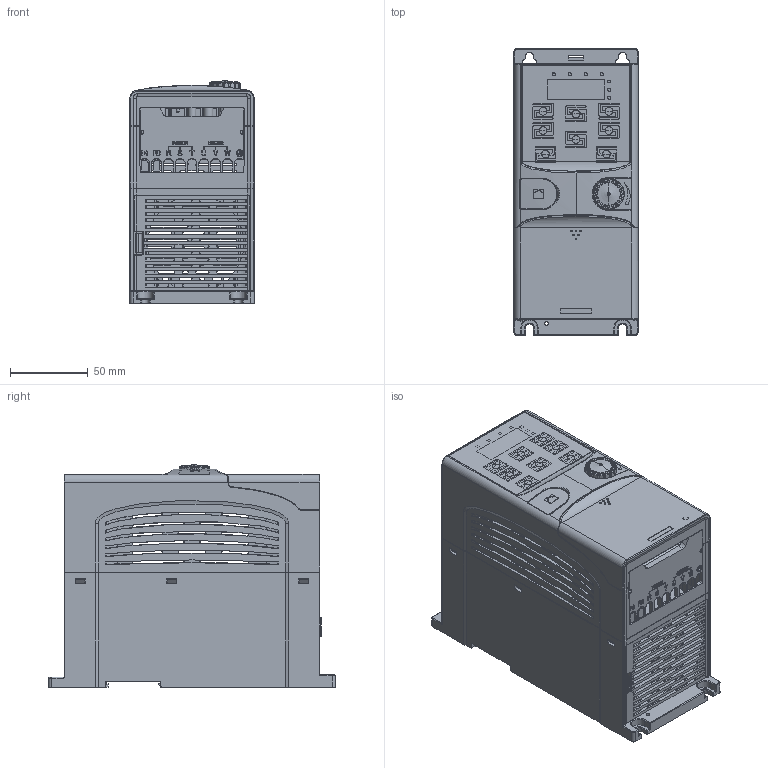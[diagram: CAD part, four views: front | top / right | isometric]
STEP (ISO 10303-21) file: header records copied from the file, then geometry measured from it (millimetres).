
FILE_DESCRIPTION (( 'STEP AP203' ), '1' );
FILE_NAME ('GD20-2R2G-4-UL.STEP', '2020-03-25T15:43:34', ( '' ), ( '' ), 'SwSTEP 2.0', 'SolidWorks 2017', '' );
FILE_SCHEMA (( 'CONFIG_CONTROL_DESIGN' ));
Length unit declared in the file: millimetre
Products named in the file (23): PRT-1; GD20-2R2G-4-UL; PRT-6; PRT-11; PRT-3; PRT-9; PRT-10; PRT-4; PRT-5; PRT-7; PRT-2; PRT-8
Assembly tree (11 placements, depth 2):
  GD20-2R2G-4-UL
    PRT-11
    PRT-10
    PRT-9
    PRT-8
    PRT-7
    PRT-6
    PRT-5
    PRT-4
    PRT-3
    PRT-2
    PRT-1
  PRT-6
  PRT-11
  PRT-3
  PRT-1
Bounding box: 80 x 185 x 143.54 mm (x, y, z)
Volume: 234965.2 mm3; surface area: 251540.7 mm2
Topology: 11 solids, 11 shells, 5450 faces, 15965 edges, 10531 vertices
Faces by surface type: plane 3003, cylinder 1288, bspline 1075, cone 74, torus 10
Entity records: 230430 total; most frequent: CARTESIAN_POINT 95482, ORIENTED_EDGE 31784, DIRECTION 21277, EDGE_CURVE 15892, VERTEX_POINT 10530, LINE 9549, VECTOR 9549, EDGE_LOOP 5868
